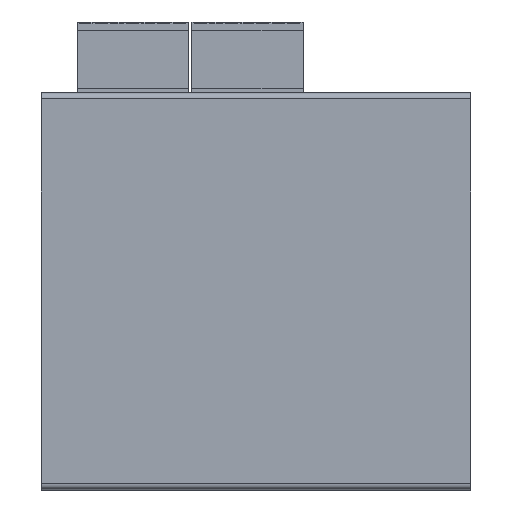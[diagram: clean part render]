
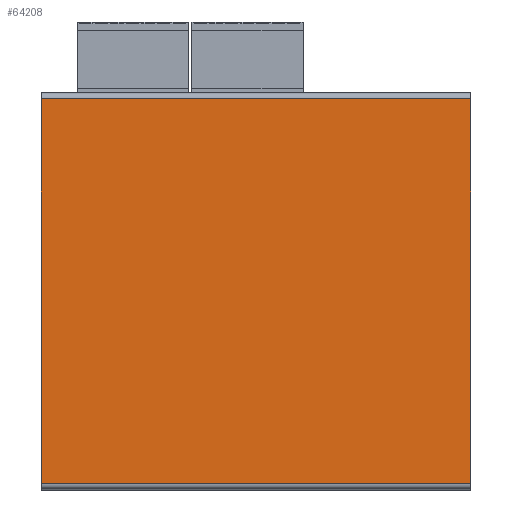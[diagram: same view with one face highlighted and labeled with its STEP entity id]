
A CAD part, top view. The second image highlights one B-rep face of the part: STEP entity #64208.
In plain terms, the highlighted planar face has unit normal (0, 0, 1).
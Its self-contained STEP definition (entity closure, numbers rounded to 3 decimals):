
#41=DIRECTION('',(0.,1.,0.));
#42=VECTOR('',#41,94.);
#43=CARTESIAN_POINT('',(52.5,-48.,27.));
#44=LINE('',#43,#42);
#49=DIRECTION('',(-1.,0.,0.));
#50=VECTOR('',#49,105.);
#51=CARTESIAN_POINT('',(52.5,46.,27.));
#52=LINE('',#51,#50);
#58=DIRECTION('',(0.,-1.,0.));
#59=VECTOR('',#58,94.);
#60=CARTESIAN_POINT('',(-52.5,46.,27.));
#61=LINE('',#60,#59);
#81=DIRECTION('',(1.,0.,0.));
#82=VECTOR('',#81,105.);
#83=CARTESIAN_POINT('',(-52.5,-48.,27.));
#84=LINE('',#83,#82);
#48577=CARTESIAN_POINT('',(52.5,46.,27.));
#48579=VERTEX_POINT('',#48577);
#48585=CARTESIAN_POINT('',(52.5,-48.,27.));
#48586=VERTEX_POINT('',#48585);
#48588=CARTESIAN_POINT('',(-52.5,46.,27.));
#48590=VERTEX_POINT('',#48588);
#48591=CARTESIAN_POINT('',(-52.5,-48.,27.));
#48592=VERTEX_POINT('',#48591);
#64196=CARTESIAN_POINT('',(0.,0.,27.));
#64197=DIRECTION('',(0.,0.,1.));
#64198=DIRECTION('',(1.,0.,0.));
#64199=AXIS2_PLACEMENT_3D('',#64196,#64197,#64198);
#64200=PLANE('',#64199);
#64201=ORIENTED_EDGE('',*,*,#64170,.F.);
#64202=ORIENTED_EDGE('',*,*,#64155,.F.);
#64204=ORIENTED_EDGE('',*,*,#64203,.F.);
#64205=ORIENTED_EDGE('',*,*,#64181,.F.);
#64206=EDGE_LOOP('',(#64201,#64202,#64204,#64205));
#64207=FACE_OUTER_BOUND('',#64206,.F.);
#64155=EDGE_CURVE('',#48586,#48579,#44,.T.);
#64170=EDGE_CURVE('',#48579,#48590,#52,.T.);
#64181=EDGE_CURVE('',#48590,#48592,#61,.T.);
#64203=EDGE_CURVE('',#48592,#48586,#84,.T.);
#64208=ADVANCED_FACE('',(#64207),#64200,.T.);
